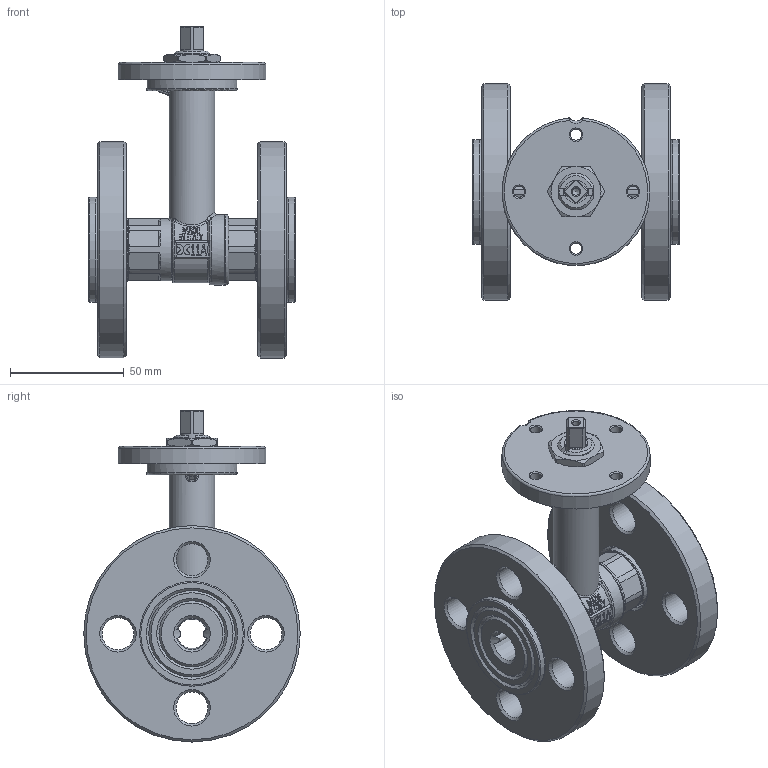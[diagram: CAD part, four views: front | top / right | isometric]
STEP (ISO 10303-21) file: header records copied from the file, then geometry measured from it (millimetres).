
FILE_DESCRIPTION(/* description */ ('Sfera 012'),/* implementation_level */ '2;1');
FILE_NAME(/* name */ '\\dcidrosfer01\user$\ut4\Desktop\TICOM 95 PME STP\Art.95 PME DN15.stp',/* time_stamp */ '2015-07-21T11:30:32+02:00',/* author */ ('ut4'),/* organization */ (''),/* preprocessor_version */ 'ST-DEVELOPER v15.6',/* originating_system */ 'Autodesk Inventor 2015',/* authorisation */ '');
FILE_SCHEMA (('AUTOMOTIVE_DESIGN { 1 0 10303 214 3 1 1 }'));
Length unit declared in the file: millimetre
Products named in the file (16): sfera 012; Dischetto portamotore SM Ø16 lav.; Dado blocca piastra SM1; Anello antigrip. perno mot. Ø13; Boccola antigrip. perno mot. Ø13; O-ring 9.75x1.78; Sede 012; Manicotto femmina 012; Corpo prolunga mot. 012; Perno prolunga mot. 13 q8; Tubetto prolunga mot. 014-034; Ghiera ferma asta mot. 17-16 prolunga; Flangia PN16 DN15; Bocchettone DN15; O-ring 20.35 x 1.78; Valv. mot. 012 art.95 PM SM
Assembly tree (21 placements, depth 2):
  Valv. mot. 012 art.95 PM SM
    sfera 012
    Dischetto portamotore SM Ø16 lav.
    Dado blocca piastra SM1
    Anello antigrip. perno mot. Ø13
    Boccola antigrip. perno mot. Ø13  x2
    O-ring 9.75x1.78  x2
    Sede 012  x2
    Manicotto femmina 012
    Corpo prolunga mot. 012
    Perno prolunga mot. 13 q8
    Tubetto prolunga mot. 014-034
    Ghiera ferma asta mot. 17-16 prolunga
    Flangia PN16 DN15  x2
    Bocchettone DN15  x2
    O-ring 20.35 x 1.78  x2
Bounding box: 90.8 x 95 x 145.75 mm (x, y, z)
Volume: 236541.5 mm3; surface area: 95973.9 mm2
Topology: 21 solids, 21 shells, 853 faces, 2099 edges, 1321 vertices
Faces by surface type: plane 331, cylinder 189, bspline 144, cone 112, torus 54, sphere 23
Full cylindrical faces by diameter (mm): 3.242 x1, 4.917 x4, 10 x4, 10.1 x2, 10.2 x1, 10.4 x2, 11 x3, 11.1 x1, 12.9 x6, 13 x2, 14 x8, 14.5 x1, 15 x8, 15.3 x1, 15.5 x1, 16 x2, 17 x1, 18.631 x1, 18.65 x1, 20 x1, 20.95 x2, 22 x4, 23 x2, 25.5 x1, 27 x1, 27.2 x2, 27.5 x2, 29 x2, 31 x2, 40 x1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
Entity records: 27606 total; most frequent: CARTESIAN_POINT 9297, ORIENTED_EDGE 3610, DIRECTION 3374, EDGE_CURVE 1805, AXIS2_PLACEMENT_3D 1291, VERTEX_POINT 1213, EDGE_LOOP 1000, LINE 792
